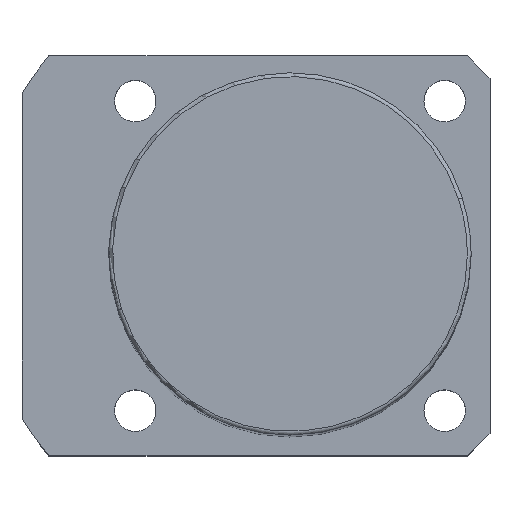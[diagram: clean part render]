
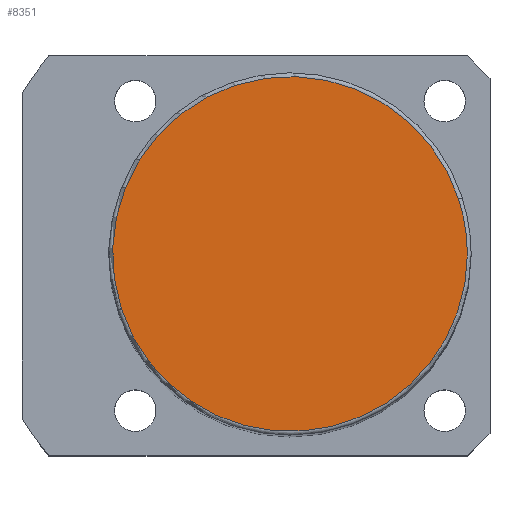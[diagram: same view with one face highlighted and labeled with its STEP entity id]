
A CAD part, top view. The second image highlights one B-rep face of the part: STEP entity #8351.
In plain terms, the highlighted planar face has unit normal (0, 0, 1).
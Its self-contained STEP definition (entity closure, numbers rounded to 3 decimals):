
#8317=CARTESIAN_POINT('',(23.5,0.0,154.0));
#8318=VERTEX_POINT('',#8317);
#8319=CARTESIAN_POINT('',(22.35,7.262,154.0));
#8320=VERTEX_POINT('',#8319);
#8321=CARTESIAN_POINT('',(0.0,0.0,154.0));
#8322=DIRECTION('',(0.0,0.0,1.0));
#8323=DIRECTION('',(1.0,0.0,0.0));
#8324=AXIS2_PLACEMENT_3D('',#8321,#8322,#8323);
#8325=CIRCLE('',#8324,23.5);
#8326=EDGE_CURVE('no 4098',#8318,#8320,#8325,.T.);
#8327=ORIENTED_EDGE('',*,*,#8326,.T.);
#8328=CARTESIAN_POINT('',(-22.35,-7.262,154.0));
#8329=VERTEX_POINT('',#8328);
#8330=CARTESIAN_POINT('',(0.0,0.0,154.0));
#8331=DIRECTION('',(0.0,0.0,1.0));
#8332=DIRECTION('',(1.0,0.0,0.0));
#8333=AXIS2_PLACEMENT_3D('',#8330,#8331,#8332);
#8334=CIRCLE('',#8333,23.5);
#8335=EDGE_CURVE('no 4104',#8320,#8329,#8334,.T.);
#8336=ORIENTED_EDGE('',*,*,#8335,.T.);
#8337=CARTESIAN_POINT('',(0.0,0.0,154.0));
#8338=DIRECTION('',(0.0,0.0,1.0));
#8339=DIRECTION('',(1.0,0.0,0.0));
#8340=AXIS2_PLACEMENT_3D('',#8337,#8338,#8339);
#8341=CIRCLE('',#8340,23.5);
#8342=EDGE_CURVE('no 4108',#8329,#8318,#8341,.T.);
#8343=ORIENTED_EDGE('',*,*,#8342,.T.);
#8344=EDGE_LOOP('',(#8327,#8336,#8343));
#8345=FACE_OUTER_BOUND('',#8344,.T.);
#8346=CARTESIAN_POINT('',(0.0,0.0,154.0));
#8347=DIRECTION('',(0.0,0.0,1.0));
#8348=DIRECTION('',(1.0,0.0,0.0));
#8349=AXIS2_PLACEMENT_3D('',#8346,#8347,#8348);
#8350=PLANE('',#8349);
#8351=ADVANCED_FACE('no 4089',(#8345),#8350,.T.);
